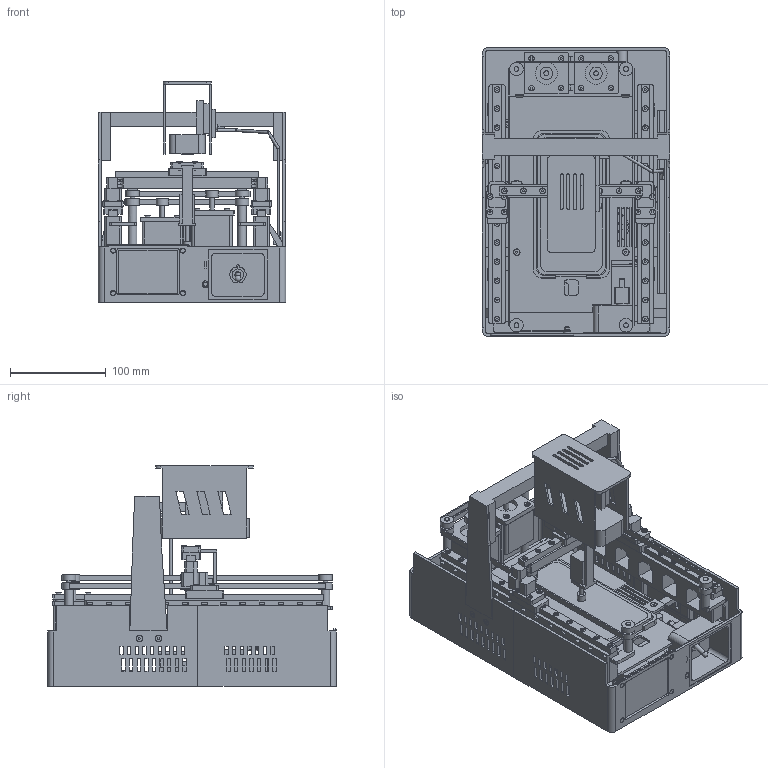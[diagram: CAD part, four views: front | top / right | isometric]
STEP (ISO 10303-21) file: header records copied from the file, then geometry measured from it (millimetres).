
FILE_DESCRIPTION(('Open CASCADE Model'),'2;1');
FILE_NAME('FT412 V2 compacta - CAD de distribucion', '2026-11-23T08:06:13',('Author'),('Open CASCADE'), 'Open CASCADE STEP processor 8.0','build123d','Unknown');
FILE_SCHEMA(('AUTOMOTIVE_DESIGN { 1 0 10303 214 1 1 1 1 }'));
Length unit declared in the file: millimetre
Products named in the file (137): FT412 V2 compacta - CAD de distribucion; base; Carcasa_detras; Carcasa_delante; front; Vidrio_TS24_62x45; electronics; PCB_pantalla_TS24; Raspberry_Pi_5; Puerto_Pi_0; Puerto_Pi_1; Puerto_Pi_2; Disipador_CanaKit; Ventilador_CanaKit; Buje_ventilador; Aspa_0; Aspa_60; Aspa_120; Aspa_180; Aspa_240; Aspa_300; MKS_DLC32_V22; TMC2209_0; Disipador_driver_0_-5; Disipador_driver_0_-2; Disipador_driver_0_1; Disipador_driver_0_4; TMC2209_1; Disipador_driver_1_-5; Disipador_driver_1_-2; Disipador_driver_1_1; Disipador_driver_1_4; USB_B_MKS; Entrada_DC_MKS; Caja_Adafruit_5648; Portafusible; Entrada_CC_trasera; toggle; S301T_arandela; S301T_tuerca_hexagonal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
Assembly tree (270 placements, depth 4):
  FT412 V2 compacta - CAD de distribucion
    base
      Carcasa_detras
      Carcasa_delante
    front
      Vidrio_TS24_62x45
    electronics
      PCB_pantalla_TS24
      Raspberry_Pi_5
      Puerto_Pi_0
      Puerto_Pi_1
      Puerto_Pi_2
      Disipador_CanaKit
      Ventilador_CanaKit
      Buje_ventilador
      Aspa_0
      Aspa_60
      Aspa_120
      Aspa_180
      Aspa_240
      Aspa_300
      MKS_DLC32_V22
      TMC2209_0
      Disipador_driver_0_-5
      Disipador_driver_0_-2
      Disipador_driver_0_1
      Disipador_driver_0_4
      TMC2209_1
      Disipador_driver_1_-5
      Disipador_driver_1_-2
      Disipador_driver_1_1
      Disipador_driver_1_4
      USB_B_MKS
      Entrada_DC_MKS
      Caja_Adafruit_5648
      Portafusible
      Entrada_CC_trasera
    toggle
      S301T_arandela
      S301T_tuerca_hexagonal
      S301T_casquillo_M12
      S301T_cuerpo
      S301T_terminal_1
      S301T_tornillo_1
      S301T_terminal_2
      S301T_tornillo_2
      S301T_palanca
    switchmount
      Marca_I_12V
      Marca_O_12V
    deck
      Tabique_sobre_electronica
    phone
      iPhone14
      Area_activa_iPhone
    rails
      Asiento_Y_I
      Asiento_Y_D
      MGN9_Y_I
      MGN9_Y_D
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Bounding box: 196 x 302 x 231 mm (x, y, z)
Volume: 1618197.7 mm3; surface area: 816443.6 mm2
Topology: 247 solids, 251 shells, 3799 faces, 8822 edges, 5866 vertices
Faces by surface type: plane 2934, cylinder 834, cone 30, sphere 1
Full cylindrical faces by diameter (mm): 2.15 x2, 2.16 x4, 2.5 x24, 2.55 x54, 2.6 x4, 2.7 x8, 2.8 x4, 2.85 x4, 2.9 x6, 3 x75, 3.4 x138, 3.5 x50, 3.55 x4, 3.6 x7, 4 x1, 4.3 x5, 4.7 x4, 5 x8, 5.1 x14, 5.3 x4, 5.4 x1, 5.7 x62, 6 x40, 6.2 x4, 6.3 x1, 6.65 x1, 7 x1, 7.2 x2, 7.3 x4, 8 x1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
Entity records: 163755 total; most frequent: CARTESIAN_POINT 31329, DIRECTION 22581, LINE 13368, VECTOR 13368, ORIENTED_EDGE 12420, PCURVE 12420, DEFINITIONAL_REPRESENTATION 12420, EDGE_CURVE 6210
